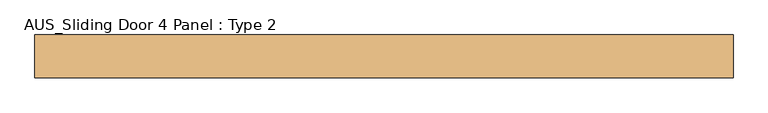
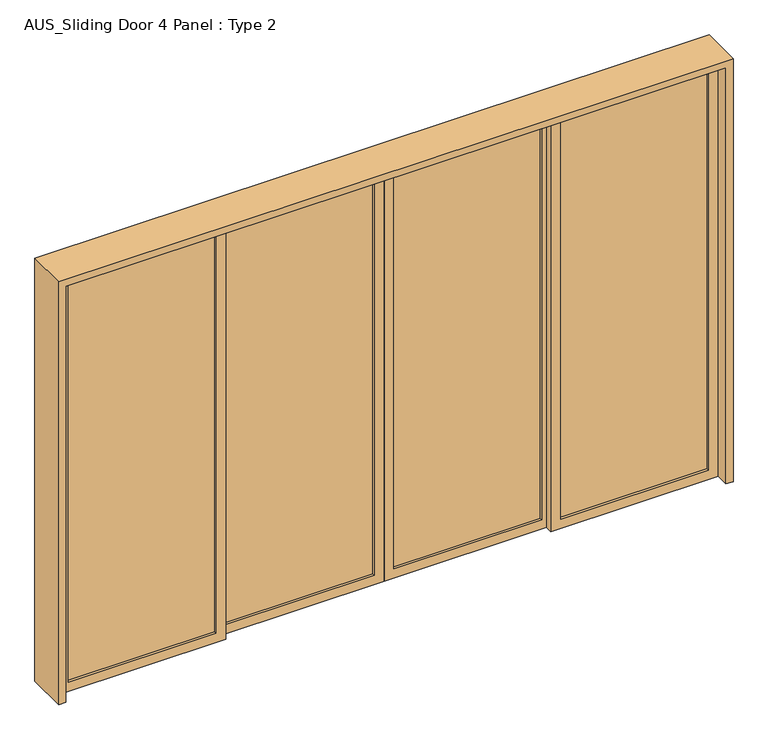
"""IFC4 building model written with IfcOpenShell, lengths in millimetres: door geometry, AUS_Sliding Door 4 Panel : Type 2."""

from ifc_helpers import new_model, si_unit, frame, origin, place, context, project, spatial, polyline, outline, extrude, source, transform, mapped, element, save


def aus_sliding_door_4_panel_type_2_6f79207a(model_context):
    return source(origin(), model_context, "Body", "SweptSolid", [
        extrude(outline(polyline([(0.0, 1914.5580012), (2438.4, 1914.5580012), (2438.4, 986.4080012), (0.0, 986.4080012), (0.0, 1914.5580012)]), holes=[polyline([(55.0, 1859.5580012), (55.0, 1041.4080012), (2383.4, 1041.4080012), (2383.4, 1859.5580012), (55.0, 1859.5580012)])]), frame((0.0, -40.0, 0.0), z_axis=(0.0, 1.0, 0.0), x_axis=(0.0, 0.0, 1.0)), (0.0, 0.0, 1.0), 40.0),
        extrude(outline(polyline([(1859.5580012, -13.3333333), (1859.5580012, -26.6666667), (1041.4080012, -26.6666667), (1041.4080012, -13.3333333), (1859.5580012, -13.3333333)])), frame((0.0, 0.0, 55.0), z_axis=(0.0, 0.0, 1.0), x_axis=(1.0, 0.0, 0.0)), (0.0, 0.0, 1.0), 2328.4),
        extrude(outline(polyline([(0.0, 1013.9080012), (2438.4, 1013.9080012), (2438.4, 85.7580012), (0.0, 85.7580012), (0.0, 1013.9080012)]), holes=[polyline([(55.0, 958.9080012), (55.0, 140.7580012), (2383.4, 140.7580012), (2383.4, 958.9080012), (55.0, 958.9080012)])]), frame((0.0, 0.0, 0.0), z_axis=(0.0, 1.0, 0.0), x_axis=(0.0, 0.0, 1.0)), (0.0, 0.0, 1.0), 40.0),
        extrude(outline(polyline([(958.9080012, 26.6666667), (958.9080012, 13.3333333), (140.7580012, 13.3333333), (140.7580012, 26.6666667), (958.9080012, 26.6666667)])), frame((0.0, 0.0, 55.0), z_axis=(0.0, 0.0, 1.0), x_axis=(1.0, 0.0, 0.0)), (0.0, 0.0, 1.0), 2328.4),
        extrude(outline(polyline([(0.0, 85.7580012), (2438.4, 85.7580012), (2438.4, -842.3919988), (0.0, -842.3919988), (0.0, 85.7580012)]), holes=[polyline([(55.0, 30.7580012), (55.0, -787.3919988), (2383.4, -787.3919988), (2383.4, 30.7580012), (55.0, 30.7580012)])]), frame((0.0, 0.0, 0.0), z_axis=(0.0, 1.0, 0.0), x_axis=(0.0, 0.0, 1.0)), (0.0, 0.0, 1.0), 40.0),
        extrude(outline(polyline([(30.7580012, 26.6666667), (30.7580012, 13.3333333), (-787.3919988, 13.3333333), (-787.3919988, 26.6666667), (30.7580012, 26.6666667)])), frame((0.0, 0.0, 55.0), z_axis=(0.0, 0.0, 1.0), x_axis=(1.0, 0.0, 0.0)), (0.0, 0.0, 1.0), 2328.4),
        extrude(outline(polyline([(0.0, -814.8919988), (2438.4, -814.8919988), (2438.4, -1743.0419988), (0.0, -1743.0419988), (0.0, -814.8919988)]), holes=[polyline([(55.0, -869.8919988), (55.0, -1688.0419988), (2383.4, -1688.0419988), (2383.4, -869.8919988), (55.0, -869.8919988)])]), frame((0.0, -40.0, 0.0), z_axis=(0.0, 1.0, 0.0), x_axis=(0.0, 0.0, 1.0)), (0.0, 0.0, 1.0), 40.0),
        extrude(outline(polyline([(-869.8919988, -13.3333333), (-869.8919988, -26.6666667), (-1688.0419988, -26.6666667), (-1688.0419988, -13.3333333), (-869.8919988, -13.3333333)])), frame((0.0, 0.0, 55.0), z_axis=(0.0, 0.0, 1.0), x_axis=(1.0, 0.0, 0.0)), (0.0, 0.0, 1.0), 2328.4),
        extrude(outline(polyline([(0.0, -1783.0419988), (0.0, -1743.0419988), (2438.4, -1743.0419988), (2438.4, 1914.5580012), (0.0, 1914.5580012), (0.0, 1954.5580012), (2478.4, 1954.5580012), (2478.4, -1783.0419988), (0.0, -1783.0419988)])), frame((0.0, -114.3, 0.0), z_axis=(0.0, 1.0, 0.0), x_axis=(0.0, 0.0, 1.0)), (0.0, 0.0, 1.0), 228.6),
    ])


if __name__ == "__main__":
    model = new_model("IFC4")
    model_context = context("Model", 3, world=origin())
    ifc_project = project(units=[si_unit("LENGTHUNIT", "METRE", prefix="MILLI")], contexts=[model_context])
    site = spatial("IfcSite", under=ifc_project)
    building = spatial("IfcBuilding", under=site)
    placement = place(None, origin())
    aus_sliding_door_4_panel_type_2_shape = aus_sliding_door_4_panel_type_2_6f79207a(model_context)
    element("IfcDoor", 1, ObjectType="AUS_Sliding Door 4 Panel : Type 2", at=placement, inside=building, context=model_context, shape_type="MappedRepresentation", body=[
        mapped(aus_sliding_door_4_panel_type_2_shape, transform((0.0, 0.0, 0.0), x_axis=(1.0, 0.0, 0.0), y_axis=(0.0, 1.0, 0.0), z_axis=(0.0, 0.0, 1.0))),
    ])
    save(model, "model.ifc")
